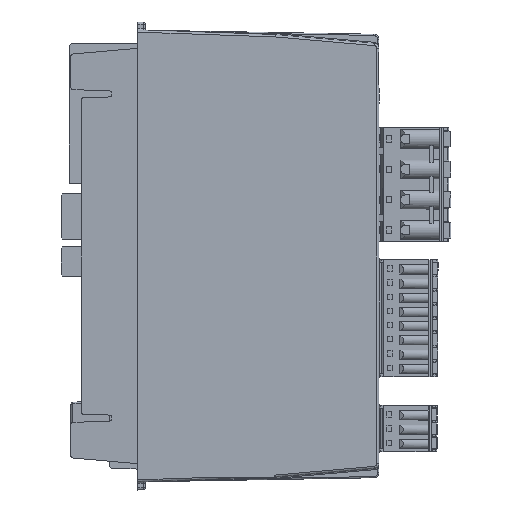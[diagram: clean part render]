
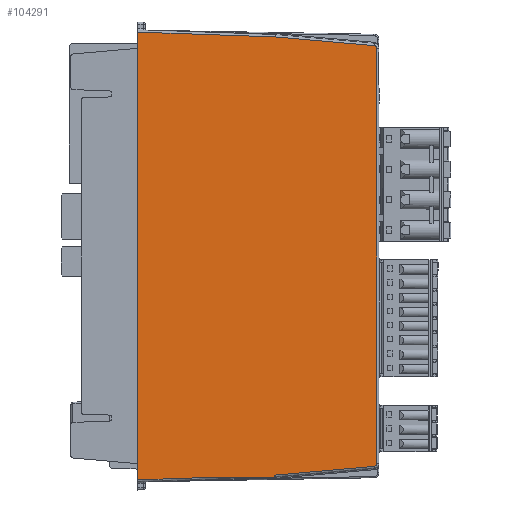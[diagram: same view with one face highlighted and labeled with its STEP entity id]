
A CAD part, left-side view. The second image highlights one B-rep face of the part: STEP entity #104291.
In plain terms, the highlighted planar face has unit normal (-1, -0.018, 0).
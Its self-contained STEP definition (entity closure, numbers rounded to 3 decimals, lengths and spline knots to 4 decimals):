
#764=ELLIPSE('',#111653,0.0315,0.0315);
#765=ELLIPSE('',#111654,0.0315,0.0315);
#4990=PLANE('',#111652);
#10838=FACE_OUTER_BOUND('',#16487,.T.);
#16487=EDGE_LOOP('',(#90148,#90149,#90150,#90151,#90152,#90153,#90154,#90155,
#90156,#90157,#90158,#90159,#90160));
#29540=LINE('',#169188,#40681);
#29553=LINE('',#169260,#40694);
#29636=LINE('',#169599,#40777);
#29946=LINE('',#171050,#41087);
#29947=LINE('',#171052,#41088);
#29948=LINE('',#171056,#41089);
#29949=LINE('',#171060,#41090);
#29950=LINE('',#171062,#41091);
#29951=LINE('',#171064,#41092);
#29952=LINE('',#171066,#41093);
#29953=LINE('',#171067,#41094);
#40681=VECTOR('',#135082,0.3937);
#40694=VECTOR('',#135123,0.3937);
#40777=VECTOR('',#135392,39.3701);
#41087=VECTOR('',#136096,39.3701);
#41088=VECTOR('',#136097,39.3701);
#41089=VECTOR('',#136100,39.3701);
#41090=VECTOR('',#136103,39.3701);
#41091=VECTOR('',#136104,39.3701);
#41092=VECTOR('',#136105,39.3701);
#41093=VECTOR('',#136106,39.3701);
#41094=VECTOR('',#136107,39.3701);
#49819=VERTEX_POINT('',#169184);
#49821=VERTEX_POINT('',#169187);
#49843=VERTEX_POINT('',#169255);
#49950=VERTEX_POINT('',#169598);
#50282=VERTEX_POINT('',#171049);
#50283=VERTEX_POINT('',#171051);
#50284=VERTEX_POINT('',#171053);
#50285=VERTEX_POINT('',#171055);
#50286=VERTEX_POINT('',#171057);
#50287=VERTEX_POINT('',#171059);
#50288=VERTEX_POINT('',#171061);
#50289=VERTEX_POINT('',#171063);
#50290=VERTEX_POINT('',#171065);
#63125=EDGE_CURVE('',#49819,#49821,#29540,.T.);
#63152=EDGE_CURVE('',#49821,#49843,#29553,.T.);
#63296=EDGE_CURVE('',#49950,#49843,#29636,.T.);
#63767=EDGE_CURVE('',#49819,#50282,#29946,.T.);
#63768=EDGE_CURVE('',#50282,#50283,#29947,.T.);
#63769=EDGE_CURVE('',#50283,#50284,#764,.T.);
#63770=EDGE_CURVE('',#50284,#50285,#29948,.T.);
#63771=EDGE_CURVE('',#50285,#50286,#765,.T.);
#63772=EDGE_CURVE('',#50286,#50287,#29949,.T.);
#63773=EDGE_CURVE('',#50287,#50288,#29950,.T.);
#63774=EDGE_CURVE('',#50288,#50289,#29951,.T.);
#63775=EDGE_CURVE('',#50290,#50289,#29952,.T.);
#63776=EDGE_CURVE('',#50290,#49950,#29953,.T.);
#90148=ORIENTED_EDGE('',*,*,#63767,.T.);
#90149=ORIENTED_EDGE('',*,*,#63768,.T.);
#90150=ORIENTED_EDGE('',*,*,#63769,.T.);
#90151=ORIENTED_EDGE('',*,*,#63770,.T.);
#90152=ORIENTED_EDGE('',*,*,#63771,.T.);
#90153=ORIENTED_EDGE('',*,*,#63772,.T.);
#90154=ORIENTED_EDGE('',*,*,#63773,.T.);
#90155=ORIENTED_EDGE('',*,*,#63774,.T.);
#90156=ORIENTED_EDGE('',*,*,#63775,.F.);
#90157=ORIENTED_EDGE('',*,*,#63776,.T.);
#90158=ORIENTED_EDGE('',*,*,#63296,.T.);
#90159=ORIENTED_EDGE('',*,*,#63152,.F.);
#90160=ORIENTED_EDGE('',*,*,#63125,.F.);
#104291=ADVANCED_FACE('',(#10838),#4990,.T.);
#111652=AXIS2_PLACEMENT_3D('',#171048,#136094,#136095);
#111653=AXIS2_PLACEMENT_3D('',#171054,#136098,#136099);
#111654=AXIS2_PLACEMENT_3D('',#171058,#136101,#136102);
#135082=DIRECTION('',(0.,0.,-1.));
#135123=DIRECTION('',(-0.017,1.,0.));
#135392=DIRECTION('',(0.017,-0.999,0.035));
#136094=DIRECTION('center_axis',(-1.,-0.017,
0.));
#136095=DIRECTION('ref_axis',(-0.017,1.,0.));
#136096=DIRECTION('',(0.017,-0.999,0.035));
#136097=DIRECTION('',(0.017,-0.996,0.087));
#136098=DIRECTION('center_axis',(-1.,-0.017,
0.));
#136099=DIRECTION('ref_axis',(0.017,-1.,0.));
#136100=DIRECTION('',(0.,0.,1.));
#136101=DIRECTION('center_axis',(-1.,-0.017,
0.));
#136102=DIRECTION('ref_axis',(0.017,-1.,0.));
#136103=DIRECTION('',(-0.017,0.996,0.087));
#136104=DIRECTION('',(-0.017,0.999,0.035));
#136105=DIRECTION('',(0.,0.,-1.));
#136106=DIRECTION('',(0.,0.,1.));
#136107=DIRECTION('',(0.,0.,-1.));
#169184=CARTESIAN_POINT('',(0.0005,-2.2096,-4.1958));
#169187=CARTESIAN_POINT('',(0.0005,-2.2096,-4.2206));
#169188=CARTESIAN_POINT('',(0.0005,-2.2096,-3.155));
#169255=CARTESIAN_POINT('',(-0.0119,-1.4997,-4.2206));
#169260=CARTESIAN_POINT('',(-0.0131,-1.4351,-4.2206));
#169598=CARTESIAN_POINT('',(-0.0227,-0.8827,-4.2421));
#169599=CARTESIAN_POINT('',(-0.0282,-0.5654,-4.2532));
#171048=CARTESIAN_POINT('Origin',(-0.0296,-0.489,
-2.0669));
#171049=CARTESIAN_POINT('',(0.0007,-2.2205,-4.1954));
#171050=CARTESIAN_POINT('',(-0.0282,-0.5654,-4.2532));
#171051=CARTESIAN_POINT('',(0.0174,-3.1772,-4.1117));
#171052=CARTESIAN_POINT('',(-0.0261,-0.6869,-4.3296));
#171053=CARTESIAN_POINT('',(0.0179,-3.2059,-4.0803));
#171054=CARTESIAN_POINT('Origin',(0.0173,-3.1744,
-4.0803));
#171055=CARTESIAN_POINT('',(0.0179,-3.2059,-0.0535));
#171056=CARTESIAN_POINT('',(0.0179,-3.2059,-0.0535));
#171057=CARTESIAN_POINT('',(0.0174,-3.1772,-0.0221));
#171058=CARTESIAN_POINT('Origin',(0.0173,-3.1744,
-0.0535));
#171059=CARTESIAN_POINT('',(0.0007,-2.2205,0.0616));
#171060=CARTESIAN_POINT('',(-0.0261,-0.6869,0.1957));
#171061=CARTESIAN_POINT('',(-0.0227,-0.8827,0.1083));
#171062=CARTESIAN_POINT('',(-0.0282,-0.5654,0.1194));
#171063=CARTESIAN_POINT('',(-0.0227,-0.8827,-0.0312));
#171064=CARTESIAN_POINT('',(-0.0227,-0.8827,0.128));
#171065=CARTESIAN_POINT('',(-0.0227,-0.8827,-4.1027));
#171066=CARTESIAN_POINT('',(-0.0227,-0.8827,-7.5932));
#171067=CARTESIAN_POINT('',(-0.0227,-0.8827,0.128));
